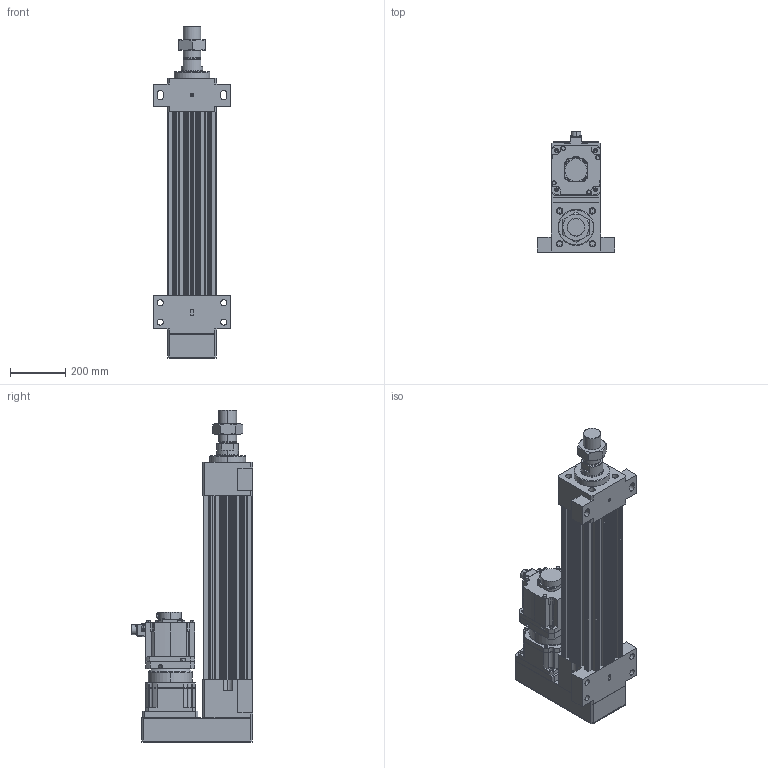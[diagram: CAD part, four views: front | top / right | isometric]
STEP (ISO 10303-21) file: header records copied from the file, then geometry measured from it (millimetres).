
FILE_DESCRIPTION (( 'STEP AP203' ), '1' );
FILE_NAME ('HES180HS-P350-W050G00-M-FFB.STEP', '2023-02-01T06:37:38', ( 'tms' ), ( '' ), 'SwSTEP 2.0', 'SolidWorks 2013', '' );
FILE_SCHEMA (( 'CONFIG_CONTROL_DESIGN' ));
Length unit declared in the file: millimetre
Products named in the file (9): P1301600001; HES180HS-P350-W050G00-M-FFB; AB180-003[HG-SR702B]; HES180-P350-G180-FFB; M64X2.0P; HES180 ROD M ST350; HG-SR502; P0403600401; AB1801
Assembly tree (8 placements, depth 3):
  HES180HS-P350-W050G00-M-FFB
    HES180-P350-G180-FFB
    HES180 ROD M ST350
    M64X2.0P
    AB180-003[HG-SR702B]
      AB1801
      P1301600001
      P0403600401
    HG-SR502
Bounding box: 280 x 438.85 x 1202 mm (x, y, z)
Volume: 28096623.7 mm3; surface area: 2396641.7 mm2
Topology: 4 solids, 19 shells, 1446 faces, 3761 edges, 2443 vertices
Faces by surface type: cylinder 668, plane 567, cone 144, bspline 63, torus 4
Entity records: 53114 total; most frequent: CARTESIAN_POINT 16078, DIRECTION 7777, ORIENTED_EDGE 7426, EDGE_CURVE 3737, AXIS2_PLACEMENT_3D 2922, VERTEX_POINT 2443, VECTOR 1933, LINE 1933
